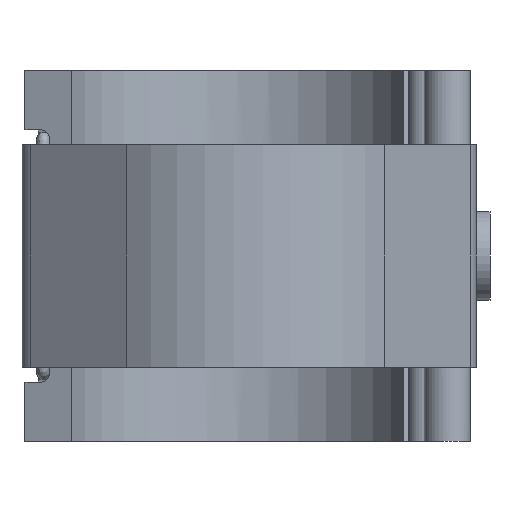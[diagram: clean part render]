
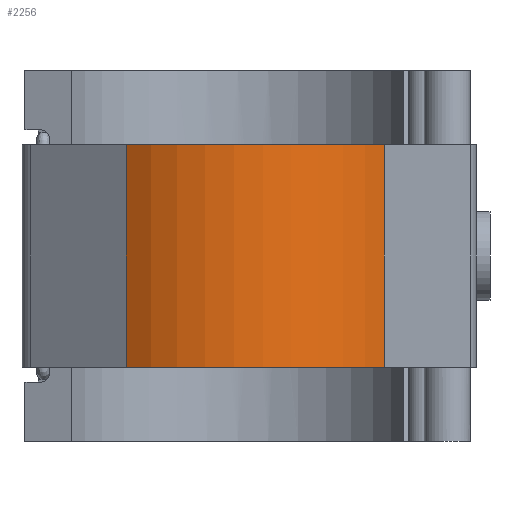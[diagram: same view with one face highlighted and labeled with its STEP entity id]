
A CAD part, front view. The second image highlights one B-rep face of the part: STEP entity #2256.
In plain terms, the highlighted cylindrical face has radius 86.52 mm (diameter 173.04 mm), a partial arc.
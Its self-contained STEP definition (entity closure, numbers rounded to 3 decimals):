
#216=FACE_OUTER_BOUND('',#351,.T.);
#351=EDGE_LOOP('',(#1991,#1992,#1993,#1994));
#447=CIRCLE('',#2420,86.52);
#453=CIRCLE('',#2427,86.52);
#703=LINE('',#4149,#891);
#708=LINE('',#4157,#896);
#891=VECTOR('',#3103,10.);
#896=VECTOR('',#3114,10.);
#1022=VERTEX_POINT('',#3832);
#1023=VERTEX_POINT('',#3834);
#1029=VERTEX_POINT('',#3851);
#1030=VERTEX_POINT('',#3853);
#1275=EDGE_CURVE('',#1022,#1023,#447,.T.);
#1286=EDGE_CURVE('',#1029,#1030,#453,.T.);
#1403=EDGE_CURVE('',#1029,#1023,#703,.T.);
#1408=EDGE_CURVE('',#1022,#1030,#708,.T.);
#1991=ORIENTED_EDGE('',*,*,#1408,.T.);
#1992=ORIENTED_EDGE('',*,*,#1286,.F.);
#1993=ORIENTED_EDGE('',*,*,#1403,.T.);
#1994=ORIENTED_EDGE('',*,*,#1275,.F.);
#2144=CYLINDRICAL_SURFACE('',#2500,86.52);
#2256=ADVANCED_FACE('',(#216),#2144,.T.);
#2420=AXIS2_PLACEMENT_3D('',#3835,#2862,#2863);
#2427=AXIS2_PLACEMENT_3D('',#3854,#2881,#2882);
#2500=AXIS2_PLACEMENT_3D('',#4158,#3115,#3116);
#2862=DIRECTION('center_axis',(0.,0.,-1.));
#2863=DIRECTION('ref_axis',(0.611,0.791,0.));
#2881=DIRECTION('center_axis',(0.,0.,1.));
#2882=DIRECTION('ref_axis',(0.611,0.791,0.));
#3103=DIRECTION('',(0.,0.,-1.));
#3114=DIRECTION('',(0.,0.,1.));
#3115=DIRECTION('center_axis',(0.,0.,1.));
#3116=DIRECTION('ref_axis',(0.611,0.791,0.));
#3832=CARTESIAN_POINT('',(69.739,-51.208,-52.807));
#3834=CARTESIAN_POINT('',(-52.905,-68.46,-52.807));
#3835=CARTESIAN_POINT('Origin',(0.,0.,
-52.807));
#3851=CARTESIAN_POINT('',(-52.905,-68.46,52.807));
#3853=CARTESIAN_POINT('',(69.739,-51.208,52.807));
#3854=CARTESIAN_POINT('Origin',(0.,0.,
52.807));
#4149=CARTESIAN_POINT('',(-52.905,-68.46,0.));
#4157=CARTESIAN_POINT('',(69.739,-51.208,0.));
#4158=CARTESIAN_POINT('Origin',(0.,0.,
0.));
